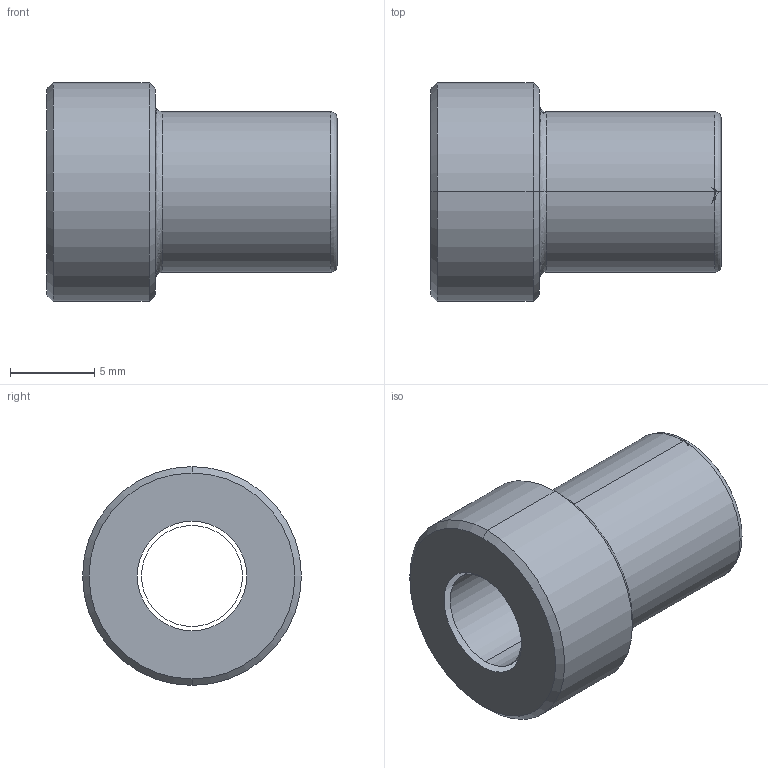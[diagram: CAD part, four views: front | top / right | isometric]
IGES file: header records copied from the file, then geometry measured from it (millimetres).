
Start section: 3D InterOp IGES (v. 2019 1.0.2), Spatial Corp. Copyright (c) 1999-2017.
Global section: file name: B2SSM.igs; native system: Spatial Corp.; preprocessor: 3D InterOp GENERIC/IGES 3.0; author: Noname; organization: Noname; date: 20200930.105759; units: millimetre
Bounding box: 17.24 x 13 x 13 mm (x, y, z)
Surface area: 1155.8 mm2 (no closed solid volume)
Topology: 0 solids, 0 shells, 21 faces, 88 edges, 86 vertices
Faces by surface type: revolution 18, extrusion 3
